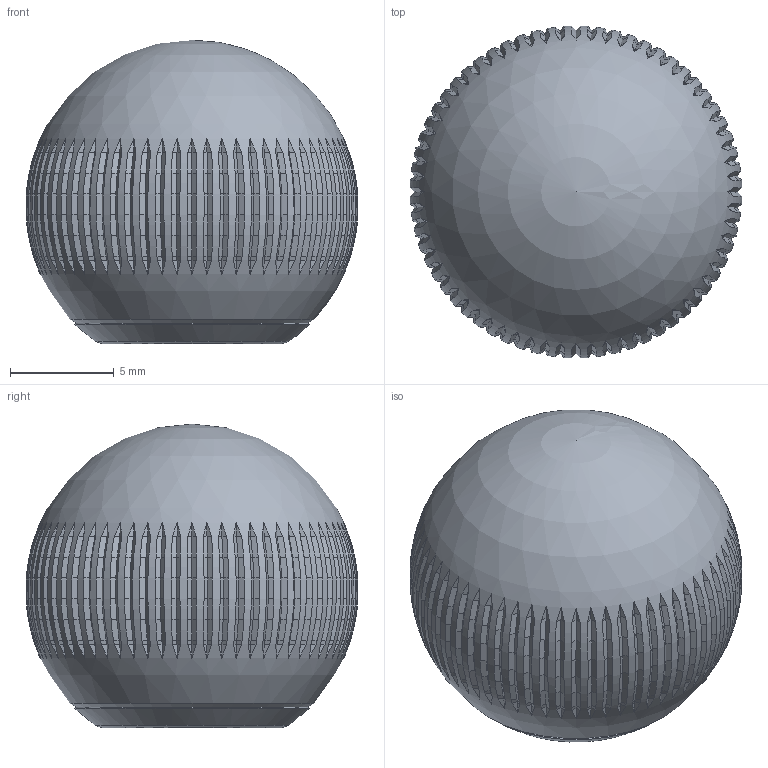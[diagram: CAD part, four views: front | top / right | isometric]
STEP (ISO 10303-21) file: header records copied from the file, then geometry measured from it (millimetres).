
FILE_DESCRIPTION(('Open CASCADE Model'),'2;1');
FILE_NAME('FL-BALL-knob-16','2026-10-19T21:24:03',('Author'),( 'Open CASCADE'),'Open CASCADE STEP processor 8.0','build123d', 'Unknown');
FILE_SCHEMA(('AUTOMOTIVE_DESIGN { 1 0 10303 214 1 1 1 1 }'));
Length unit declared in the file: millimetre
Products named in the file (2): FL-BALL-knob-16; brass_FL-BALL16__k
Assembly tree (1 placements, depth 2):
  FL-BALL-knob-16
    brass_FL-BALL16__k
Bounding box: 15.97 x 15.97 x 14.61 mm (x, y, z)
Volume: 1972 mm3; surface area: 988.1 mm2
Topology: 1 solids, 1 shells, 1034 faces, 2450 edges, 1482 vertices
Faces by surface type: bspline 1025, plane 3, sphere 2, cone 2, cylinder 2
Full cylindrical faces by diameter (mm): 3.3 x1, 5.1 x1
Entity records: 94910 total; most frequent: CARTESIAN_POINT 55920, ORIENTED_EDGE 4898, PCURVE 4898, DEFINITIONAL_REPRESENTATION 4898, B_SPLINE_CURVE_WITH_KNOTS 4231, DIRECTION 3148, LINE 3102, VECTOR 3102
